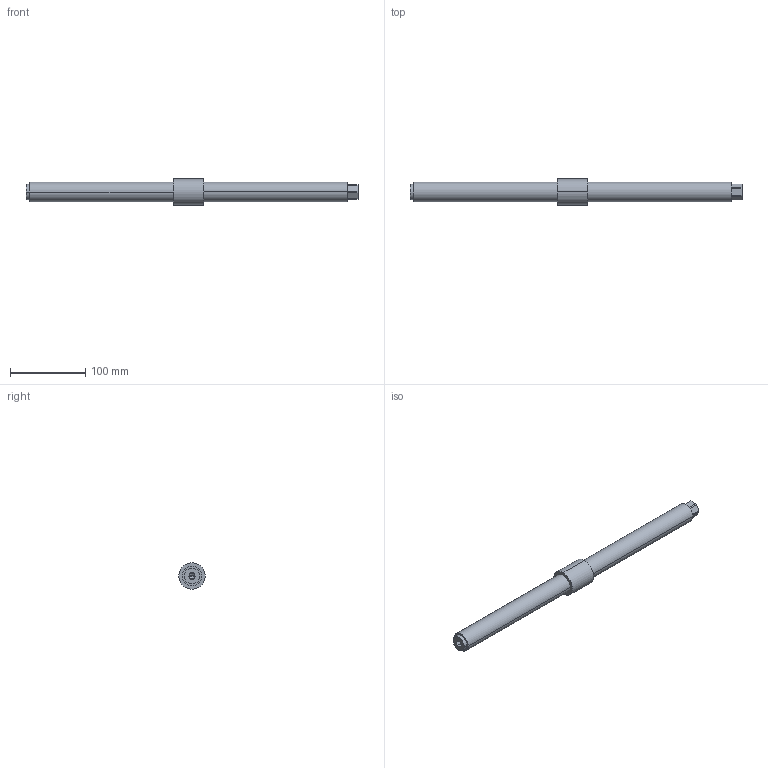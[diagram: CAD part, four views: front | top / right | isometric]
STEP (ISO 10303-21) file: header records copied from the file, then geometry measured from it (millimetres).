
FILE_DESCRIPTION (( 'STEP AP214' ), '1' );
FILE_NAME ('81004.STEP', '2020-10-28T06:51:04', ( '' ), ( '' ), 'SwSTEP 2.0', 'SolidWorks 2019', '' );
FILE_SCHEMA (( 'AUTOMOTIVE_DESIGN' ));
Length unit declared in the file: millimetre
Products named in the file (1): 81004
Bounding box: 441 x 35 x 35 mm (x, y, z)
Volume: 248566.7 mm3; surface area: 46838.3 mm2
Topology: 3 solids, 3 shells, 53 faces, 125 edges, 80 vertices
Faces by surface type: plane 28, cylinder 21, cone 4
Entity records: 2140 total; most frequent: DIRECTION 271, CARTESIAN_POINT 255, ORIENTED_EDGE 242, EDGE_CURVE 121, AXIS2_PLACEMENT_3D 96, VERTEX_POINT 80, LINE 79, VECTOR 79
